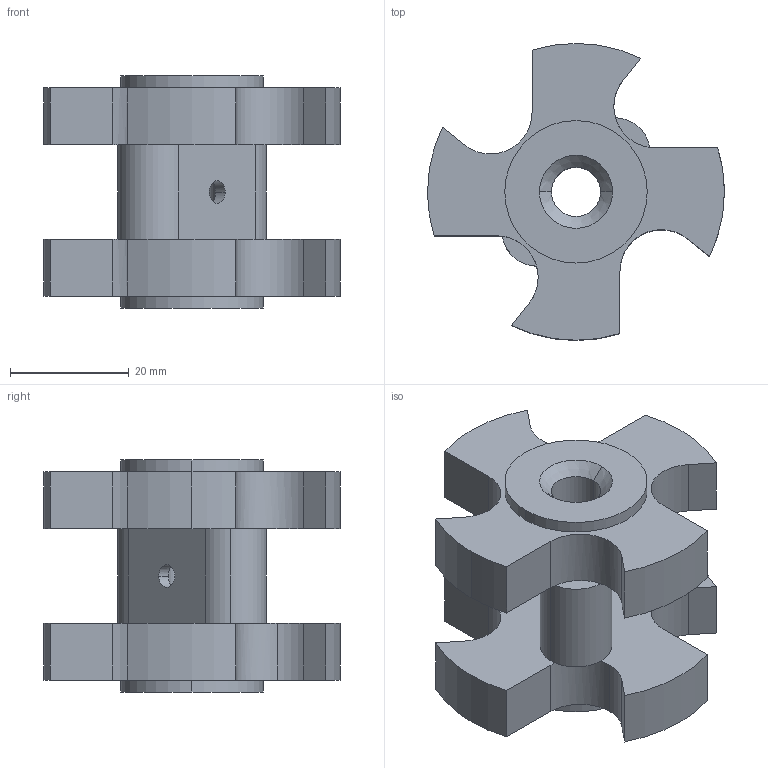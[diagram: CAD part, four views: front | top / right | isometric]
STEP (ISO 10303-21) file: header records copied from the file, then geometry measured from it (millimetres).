
FILE_DESCRIPTION (( 'STEP AP214' ), '1' );
FILE_NAME ('ÐÇ148.00.00.003 - Êîëåñî ïîâîðîòà áëîêà DF00004039.STEP', '2024-08-01T08:29:36', ( '' ), ( '' ), 'SwSTEP 2.0', 'SolidWorks 2021', '' );
FILE_SCHEMA (( 'AUTOMOTIVE_DESIGN' ));
Length unit declared in the file: millimetre
Products named in the file (1): ÐÇ148.00.00.003 - Êîëåñî ïîâîðîòà áëîêà DF00004039
Bounding box: 50 x 50 x 39.1 mm (x, y, z)
Volume: 29433.2 mm3; surface area: 10751 mm2
Topology: 1 solids, 1 shells, 67 faces, 177 edges, 114 vertices
Faces by surface type: cylinder 33, plane 30, cone 4
Entity records: 2243 total; most frequent: CARTESIAN_POINT 467, DIRECTION 391, ORIENTED_EDGE 354, EDGE_CURVE 177, AXIS2_PLACEMENT_3D 150, VERTEX_POINT 114, LINE 91, VECTOR 91
